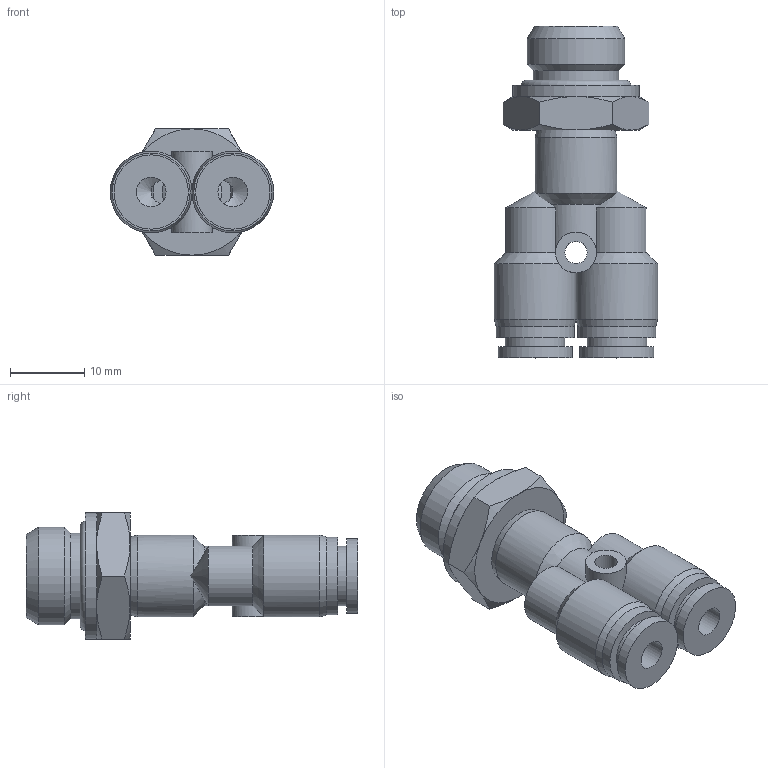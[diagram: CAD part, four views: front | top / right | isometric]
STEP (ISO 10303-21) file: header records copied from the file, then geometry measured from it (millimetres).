
FILE_DESCRIPTION(/* description */ (''),/* implementation_level */ '2;1');
FILE_NAME(/* name */ 'S:\_Tecnico\ArchivioUT\_Disegni3D ingombri\DISEGNI 3D per ingombri\RP\RP 74\RP741404.stp',/* time_stamp */ '2020-02-05T15:16:17+01:00',/* author */ ('UfficioTecnico'),/* organization */ (''),/* preprocessor_version */ 'ST-DEVELOPER v18',/* originating_system */ 'Autodesk Inventor 2020',/* authorisation */ '');
FILE_SCHEMA (('AUTOMOTIVE_DESIGN { 1 0 10303 214 3 1 1 }'));
Length unit declared in the file: millimetre
Products named in the file (1): RP741404
Bounding box: 22 x 44.69 x 17 mm (x, y, z)
Volume: 5433.7 mm3; surface area: 4393.7 mm2
Topology: 2 solids, 2 shells, 73 faces, 187 edges, 122 vertices
Faces by surface type: cone 27, cylinder 25, plane 19, torus 2
Full cylindrical faces by diameter (mm): 2.5 x1, 3 x1, 4 x2, 5.5 x2, 8 x3, 10 x2, 10.5 x2, 11 x3, 11.5 x2, 13.157 x1, 17 x1
Entity records: 2405 total; most frequent: CARTESIAN_POINT 621, DIRECTION 379, ORIENTED_EDGE 366, EDGE_CURVE 183, AXIS2_PLACEMENT_3D 170, VERTEX_POINT 122, CIRCLE 96, EDGE_LOOP 86
